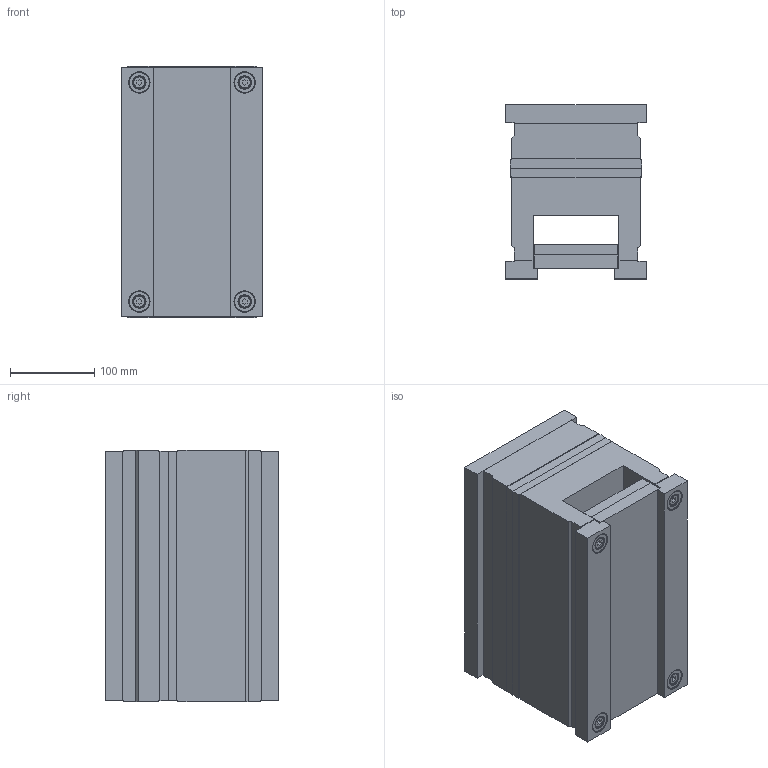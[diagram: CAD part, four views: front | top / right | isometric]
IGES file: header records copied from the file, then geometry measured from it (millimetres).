
Start section: SolidWorks IGES FILE using analytic representation for surfaces
Global section: file name: C:\Documents and Settings\K.P\My Documents\Mechanical\ALMO\CATL_EUR\RECT\1564.IGS; native system: SolidWorks 2001Plus by SolidWorks Corporation; preprocessor: Version 5.3; author: Pavel; date: 020709.091804; units: millimetre
Bounding box: 167 x 206 x 298 mm (x, y, z)
Surface area: 685485.1 mm2 (no closed solid volume)
Topology: 0 solids, 0 shells, 706 faces, 10312 edges, 10304 vertices
Faces by surface type: revolution 452, bspline 254
